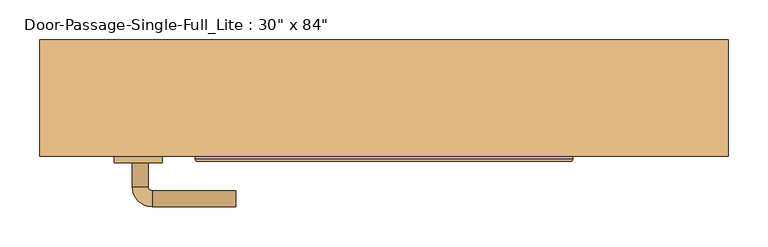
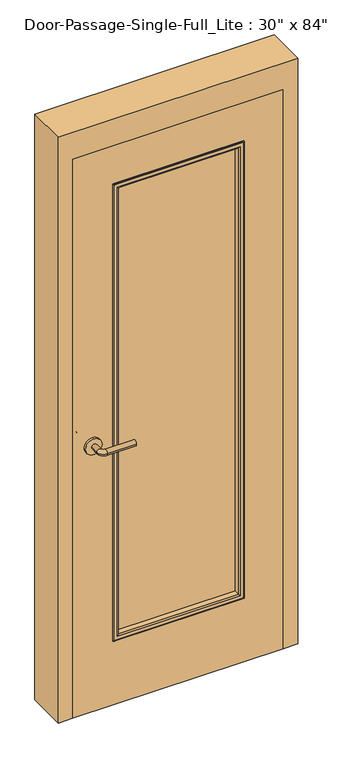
"""IFC4 building model written with IfcOpenShell, lengths in millimetres: door geometry."""

import ifcopenshell
import ifcopenshell.guid

model = None  # the IFC model being written
_history = None  # IfcOwnerHistory: only IFC2X3 demands one
_inside = {}  # id of a spatial element -> (the spatial element, [elements in it])
_under = {}  # id of a project, library or spatial element -> (it, [spatial elements below it])
_declared = {}  # id of a project -> (the project, [libraries it declares])
_typed = {}  # id of a type object -> (the type object, [elements of that type])
_made_of = {}  # id of a material, layer set ... -> (it, [elements and type objects made of it])


def new_model(schema):
    """Start an empty IFC model of exactly this schema.

    Asked for "IFC4X3", IfcOpenShell would pick the latest addendum, in which some entities
    have other attributes; the version numbers below select the first issue.
    IFC2X3 requires an IfcOwnerHistory on every rooted entity: one is made here for all.
    """
    global model, _history
    if schema == "IFC4X3":
        model = ifcopenshell.file(schema_version=(4, 3, 0, 0))
    else:
        model = ifcopenshell.file(schema=schema)
    _inside.clear()
    _under.clear()
    _declared.clear()
    _typed.clear()
    _made_of.clear()
    _history = None
    if model.schema == "IFC2X3":
        org = make("IfcOrganization", Name="unknown")
        user = make(
            "IfcPersonAndOrganization",
            ThePerson=make("IfcPerson", FamilyName="unknown"),
            TheOrganization=org,
        )
        app = make(
            "IfcApplication",
            ApplicationDeveloper=org,
            Version="unknown",
            ApplicationFullName="unknown",
            ApplicationIdentifier="unknown",
        )
        _history = make(
            "IfcOwnerHistory",
            OwningUser=user,
            OwningApplication=app,
            ChangeAction="ADDED",
            CreationDate=0,
        )
    return model


def make(cls, **values):
    """One entity of the class cls with the attributes given. An attribute that is None is left unset."""
    return model.create_entity(
        cls, **{name: value for name, value in values.items() if value is not None}
    )


def rooted(cls, **values):
    """An entity with a GlobalId (a new one), such as an element, a storey or a relation."""
    return make(cls, GlobalId=ifcopenshell.guid.new(), OwnerHistory=_history, **values)


def si_unit(unit_type, name, prefix=None):
    """IfcSIUnit, for example si_unit("LENGTHUNIT", "METRE", prefix="MILLI")."""
    return make("IfcSIUnit", UnitType=unit_type, Prefix=prefix, Name=name)


def assignment(units):
    """IfcUnitAssignment: the units of a project."""
    return None if units is None else make("IfcUnitAssignment", Units=units)


def point(xyz):
    """IfcCartesianPoint."""
    return None if xyz is None else make("IfcCartesianPoint", Coordinates=xyz)


def direction(xyz):
    """IfcDirection."""
    return None if xyz is None else make("IfcDirection", DirectionRatios=xyz)


def frame(location, z_axis=None, x_axis=None):
    """IfcAxis2Placement3D, a coordinate frame: its origin and axes. An axis left out is left unset."""
    return make(
        "IfcAxis2Placement3D",
        Location=point(location),
        Axis=direction(z_axis),
        RefDirection=direction(x_axis),
    )


def frame_2d(location, x_axis=None):
    """IfcAxis2Placement2D, a coordinate frame in the plane: its origin and x axis."""
    return make(
        "IfcAxis2Placement2D", Location=point(location), RefDirection=direction(x_axis)
    )


def origin():
    """The frame at (0, 0, 0) with its axes left unset."""
    return frame((0.0, 0.0, 0.0))


def place(relative_to, where):
    """IfcLocalPlacement: puts the frame where relative to a parent placement (None: the world)."""
    return make(
        "IfcLocalPlacement", PlacementRelTo=relative_to, RelativePlacement=where
    )


def context(
    kind, dimensions, precision=None, world=None, true_north=None, identifier=None
):
    """IfcGeometricRepresentationContext, for example the 3D "Model" context."""
    return make(
        "IfcGeometricRepresentationContext",
        ContextIdentifier=identifier,
        ContextType=kind,
        CoordinateSpaceDimension=dimensions,
        Precision=precision,
        WorldCoordinateSystem=world,
        TrueNorth=true_north,
    )


def project(units=None, contexts=None):
    """IfcProject with its units and contexts."""
    return rooted(
        "IfcProject",
        Name="project",
        RepresentationContexts=contexts,
        UnitsInContext=assignment(units),
    )


def spatial(cls, under=None, at=None, **own):
    """A site, building, storey or space (cls), placed at a placement, below another one or the project."""
    s = rooted(cls, ObjectPlacement=at, **own)
    if under is not None:
        _under.setdefault(under.id(), (under, []))[1].append(s)
    return s


def polyline(points):
    """IfcPolyline through the points."""
    return make("IfcPolyline", Points=[point(p) for p in points])


def circle_curve(where, radius):
    """IfcCircle in the frame where."""
    return make("IfcCircle", Position=where, Radius=radius)


def ellipse_curve(where, semi_axis1, semi_axis2):
    """IfcEllipse in the frame where."""
    return make(
        "IfcEllipse", Position=where, SemiAxis1=semi_axis1, SemiAxis2=semi_axis2
    )


def trimmed(basis, trim1, trim2, sense, master):
    """IfcTrimmedCurve: the piece of a basis curve between two trims."""
    return make(
        "IfcTrimmedCurve",
        BasisCurve=basis,
        Trim1=trim1,
        Trim2=trim2,
        SenseAgreement=sense,
        MasterRepresentation=master,
    )


def segment(curve, same_sense, transition):
    """IfcCompositeCurveSegment."""
    return make(
        "IfcCompositeCurveSegment",
        Transition=transition,
        SameSense=same_sense,
        ParentCurve=curve,
    )


def composite_curve(segments, self_intersect=None):
    """IfcCompositeCurve: segments joined end to end."""
    return make("IfcCompositeCurve", Segments=segments, SelfIntersect=self_intersect)


def outline(outer, holes=None, kind="AREA"):
    """IfcArbitraryClosedProfileDef: a profile drawn as a closed curve; with holes, ...WithVoids."""
    if holes is None:
        return make("IfcArbitraryClosedProfileDef", ProfileType=kind, OuterCurve=outer)
    return make(
        "IfcArbitraryProfileDefWithVoids",
        ProfileType=kind,
        OuterCurve=outer,
        InnerCurves=holes,
    )


def extrude(swept, where, along, depth):
    """IfcExtrudedAreaSolid: the profile swept, set in the frame where, extruded along a direction by depth."""
    return make(
        "IfcExtrudedAreaSolid",
        SweptArea=swept,
        Position=where,
        ExtrudedDirection=direction(along),
        Depth=depth,
    )


def faces_of(points, faces, orient=None, outer=None):
    """IfcFace entities. A face is a list of loops; a loop is a list of indices into points, from 0.

    orient and outer hold one flag for each loop. By default every Orientation is true, the
    first loop of a face is its IfcFaceOuterBound and the others are IfcFaceBound.
    """
    made = []
    for i, loops in enumerate(faces):
        bounds = []
        for j, loop in enumerate(loops):
            is_outer = j == 0 if outer is None else outer[i][j]
            bounds.append(
                make(
                    "IfcFaceOuterBound" if is_outer else "IfcFaceBound",
                    Bound=make("IfcPolyLoop", Polygon=[points[k] for k in loop]),
                    Orientation=True if orient is None else orient[i][j],
                )
            )
        made.append(make("IfcFace", Bounds=bounds))
    return made


def faceted_brep(points, faces, orient=None, outer=None, voids=None):
    """IfcFacetedBrep: a solid bounded by flat faces; with voids (closed shells), ...WithVoids."""
    shared = [point(p) for p in points]
    hull = make("IfcClosedShell", CfsFaces=faces_of(shared, faces, orient, outer))
    if voids is None:
        return make("IfcFacetedBrep", Outer=hull)
    return make(
        "IfcFacetedBrepWithVoids",
        Outer=hull,
        Voids=[
            make(cls, CfsFaces=faces_of(shared, fs, o, b)) for cls, fs, o, b in voids
        ],
    )


def shape(context_of_items, identifier, shape_type, items):
    """IfcShapeRepresentation: the items that make up one representation, for example the "Body"."""
    return make(
        "IfcShapeRepresentation",
        ContextOfItems=context_of_items,
        RepresentationIdentifier=identifier,
        RepresentationType=shape_type,
        Items=items,
    )


def source(mapping_origin, context_of_items, identifier, shape_type, items):
    """IfcRepresentationMap: a shape defined once, which mapped items show again and again."""
    return make(
        "IfcRepresentationMap",
        MappingOrigin=mapping_origin,
        MappedRepresentation=shape(context_of_items, identifier, shape_type, items),
    )


def transform(
    local_origin,
    x_axis=None,
    y_axis=None,
    z_axis=None,
    scale=None,
    scale2=None,
    scale3=None,
    uniform=True,
):
    """IfcCartesianTransformationOperator3D, or its non-uniform kind. x_axis, y_axis, z_axis: its Axis1, 2, 3."""
    if uniform:
        return make(
            "IfcCartesianTransformationOperator3D",
            Axis1=direction(x_axis),
            Axis2=direction(y_axis),
            LocalOrigin=point(local_origin),
            Scale=scale,
            Axis3=direction(z_axis),
        )
    return make(
        "IfcCartesianTransformationOperator3DnonUniform",
        Axis1=direction(x_axis),
        Axis2=direction(y_axis),
        LocalOrigin=point(local_origin),
        Scale=scale,
        Axis3=direction(z_axis),
        Scale2=scale2,
        Scale3=scale3,
    )


def mapped(mapping_source, mapping_target):
    """IfcMappedItem: shows the shape of a source again, moved by a transform."""
    return make(
        "IfcMappedItem", MappingSource=mapping_source, MappingTarget=mapping_target
    )


def made_of(thing, what):
    """Note that an element or type object is made of a material, layer set ...; save() writes the relation."""
    if what is not None:
        _made_of.setdefault(what.id(), (what, []))[1].append(thing)
    return thing


def element(
    cls,
    number,
    at=None,
    inside=None,
    cuts=None,
    type_object=None,
    material=None,
    context=None,
    identifier="Body",
    shape_type=None,
    held_by="IfcProductDefinitionShape",
    body=None,
    shapes=None,
    **own,
):
    """One element of the class cls, such as IfcWall. Its Tag is "e" and its number.

    at: its placement. inside: the storey or other place that contains it. cuts: it is an
    opening in that element (IfcRelVoidsElement). A single representation is given by context,
    identifier, shape_type and body (its items); several are given by shapes. held_by: the class
    of the entity that holds the representations. save() writes the other relations.
    """
    e = rooted(cls, Tag="e%d" % number, ObjectPlacement=at, **own)
    if body is not None:
        shapes = [shape(context, identifier, shape_type, body)]
    if shapes is not None:
        e.Representation = make(held_by, Representations=shapes)
    if inside is not None:
        _inside.setdefault(inside.id(), (inside, []))[1].append(e)
    if cuts is not None:
        rooted(
            "IfcRelVoidsElement", RelatingBuildingElement=cuts, RelatedOpeningElement=e
        )
    if type_object is not None:
        _typed.setdefault(type_object.id(), (type_object, []))[1].append(e)
    return made_of(e, material)


def aggregate(whole, parts):
    """IfcRelAggregates: a whole, such as a stair, and the parts it consists of."""
    return rooted("IfcRelAggregates", RelatingObject=whole, RelatedObjects=parts)


def save(model, path):
    """Write the relations noted so far, then the file.

    IfcRelAggregates (storeys below a building ...), IfcRelContainedInSpatialStructure (elements
    in a storey), IfcRelDefinesByType, IfcRelAssociatesMaterial and IfcRelDeclares: one each for
    every whole, place, type object, material and project.
    """
    for whole, parts in _under.values():
        aggregate(whole, parts)
    for where, things in _inside.values():
        rooted(
            "IfcRelContainedInSpatialStructure",
            RelatedElements=things,
            RelatingStructure=where,
        )
    for kind, things in _typed.values():
        rooted("IfcRelDefinesByType", RelatedObjects=things, RelatingType=kind)
    for what, things in _made_of.values():
        rooted("IfcRelAssociatesMaterial", RelatedObjects=things, RelatingMaterial=what)
    for by, libraries in _declared.values():
        rooted("IfcRelDeclares", RelatingContext=by, RelatedDefinitions=libraries)
    model.write(path)


def plane_surface(at):
    """IfcPlane: the flat surface through the origin of the frame at, square to its z axis."""
    return make("IfcPlane", Position=at)


def cylinder_surface(at, radius):
    """IfcCylindricalSurface: all points at the distance radius from the z axis of the frame at."""
    return make("IfcCylindricalSurface", Position=at, Radius=radius)


def revolved_surface(curve, axis_point, axis_direction):
    """IfcSurfaceOfRevolution: the curve turned about the line through axis_point along axis_direction."""
    return make(
        "IfcSurfaceOfRevolution",
        SweptCurve=make("IfcArbitraryOpenProfileDef", ProfileType="CURVE", Curve=curve),
        AxisPosition=make("IfcAxis1Placement", Location=point(axis_point), Axis=direction(axis_direction)),
    )


def advanced_brep(points, edges, surfaces, faces):
    """IfcAdvancedBrep: a solid bounded by faces that lie on surfaces and meet in shared edges.

    An edge is (start, end): straight between two places in points (the first is 0);
    or (start, end, curve); or (start, end, curve, False) where it runs against its curve.
    A face is (place in surfaces, loops), or (place, loops, False) where it looks against
    its surface's normal. A loop lists edges by number (the first is 1), with a minus sign
    where the edge is run from its end to its start. The first loop is the outer one.
    """
    corners = [point(p) for p in points]
    vertices = [make("IfcVertexPoint", VertexGeometry=c) for c in corners]
    made = []
    for start, end, *more in edges:
        made.append(
            make(
                "IfcEdgeCurve",
                EdgeStart=vertices[start],
                EdgeEnd=vertices[end],
                EdgeGeometry=more[0] if more else make("IfcPolyline", Points=[corners[start], corners[end]]),
                SameSense=more[1] if len(more) > 1 else True,
            )
        )
    hull = []
    for where, loops, *sense in faces:
        bounds = []
        for j, loop in enumerate(loops):
            ring = [make("IfcOrientedEdge", EdgeElement=made[abs(k) - 1], Orientation=k > 0) for k in loop]
            bounds.append(
                make(
                    "IfcFaceOuterBound" if j == 0 else "IfcFaceBound",
                    Bound=make("IfcEdgeLoop", EdgeList=ring),
                    Orientation=True,
                )
            )
        hull.append(make("IfcAdvancedFace", Bounds=bounds, FaceSurface=surfaces[where], SameSense=sense[0] if sense else True))
    return make("IfcAdvancedBrep", Outer=make("IfcClosedShell", CfsFaces=hull))


def door_a28de425(model_context):
    return source(origin(), model_context, "Body", "SolidModel", [
        advanced_brep(
        [(-315.990625, -23.75, 1016.0), (-295.990625, -23.75, 1016.0), (-315.990625, 6.25, 1016.0), (-295.990625, 6.25, 1016.0), (-290.990625, 11.25, 1016.0), (-290.990625, 31.25, 1016.0), (-185.990625, 31.25, 1016.0), (-185.990625, 11.25, 1016.0)],
        [
            (0, 1, circle_curve(frame((-305.990625, -23.75, 1016.0), z_axis=(0.0, -1.0, 0.0), x_axis=(1.0, 0.0, 0.0)), 10.0)),
            (1, 0, circle_curve(frame((-305.990625, -23.75, 1016.0), z_axis=(0.0, -1.0, 0.0), x_axis=(1.0, 0.0, 0.0)), 10.0)),
            (0, 2),
            (2, 3, circle_curve(frame((-305.990625, 6.25, 1016.0), z_axis=(0.0, -1.0, 0.0), x_axis=(1.0, 0.0, 0.0)), 10.0)),
            (3, 1),
            (3, 2, circle_curve(frame((-305.990625, 6.25, 1016.0), z_axis=(0.0, -1.0, 0.0), x_axis=(1.0, 0.0, 0.0)), 10.0)),
            (4, 3, circle_curve(frame((-290.990625, 6.25, 1016.0), z_axis=(0.0, 0.0, 1.0), x_axis=(-1.0, 0.0, 0.0)), 5.0)),
            (2, 5, circle_curve(frame((-290.990625, 6.25, 1016.0), z_axis=(0.0, 0.0, -1.0), x_axis=(-1.0, 0.0, 0.0)), 25.0)),
            (5, 4, circle_curve(frame((-290.990625, 21.25, 1016.0), z_axis=(-1.0, 0.0, 0.0), x_axis=(0.0, -1.0, 0.0)), 10.0)),
            (4, 5, circle_curve(frame((-290.990625, 21.25, 1016.0), z_axis=(-1.0, 0.0, 0.0), x_axis=(0.0, -1.0, 0.0)), 10.0)),
            (6, 7, circle_curve(frame((-185.990625, 21.25, 1016.0), z_axis=(1.0, 0.0, 0.0), x_axis=(0.0, -1.0, 0.0)), 10.0)),
            (7, 6, circle_curve(frame((-185.990625, 21.25, 1016.0), z_axis=(1.0, 0.0, 0.0), x_axis=(0.0, -1.0, 0.0)), 10.0)),
            (5, 6),
            (7, 4),
        ],
        [
            plane_surface(frame((-305.990625, -23.75, 1016.0), z_axis=(0.0, -1.0, 0.0), x_axis=(0.0, 0.0, 1.0))),
            cylinder_surface(frame((-305.990625, -23.75, 1016.0), z_axis=(0.0, -1.0, 0.0), x_axis=(1.0, 0.0, 0.0)), 10.0),
            revolved_surface(trimmed(ellipse_curve(frame((-305.990625, 6.25, 1016.0), z_axis=(0.0, -1.0, 0.0), x_axis=(1.0, 0.0, 0.0)), 10.0, 10.0), [point((-315.990625, 6.25, 1016.0))], [point((-295.990625, 6.25, 1016.0))], True, "CARTESIAN"), (-290.990625, 6.25, 1016.0), (0.0, 0.0, -1.0)),
            revolved_surface(trimmed(ellipse_curve(frame((-305.990625, 6.25, 1016.0), z_axis=(0.0, -1.0, 0.0), x_axis=(1.0, 0.0, 0.0)), 10.0, 10.0), [point((-295.990625, 6.25, 1016.0))], [point((-315.990625, 6.25, 1016.0))], True, "CARTESIAN"), (-290.990625, 6.25, 1016.0), (0.0, 0.0, -1.0)),
            plane_surface(frame((-185.990625, 21.25, 1016.0), z_axis=(1.0, 0.0, 0.0), x_axis=(0.0, 0.0, 1.0))),
            cylinder_surface(frame((-290.990625, 21.25, 1016.0), z_axis=(-1.0, 0.0, 0.0), x_axis=(0.0, -1.0, 0.0)), 10.0),
        ],
        [
            (0, [[1, 2]]),
            (1, [[-1, 3, 4, 5]]),
            (1, [[-2, -5, 6, -3]]),
            (2, [[7, -4, 8, 9]]),
            (3, [[-8, -6, -7, 10]]),
            (4, [[11, 12]]),
            (5, [[-9, 13, -12, 14]]),
            (5, [[-10, -14, -11, -13]]),
        ],
    ),
        extrude(outline(composite_curve([segment(trimmed(circle_curve(frame_2d((1016.0, -308.490625)), 30.0), [point((1016.0, -338.490625))], [point((1016.0, -278.490625))], False, "CARTESIAN"), True, "CONTINUOUS"), segment(trimmed(circle_curve(frame_2d((1016.0, -308.490625)), 30.0), [point((1016.0, -278.490625))], [point((1016.0, -338.490625))], False, "CARTESIAN"), True, "CONTINUOUS")], self_intersect=False)), frame((0.0, -31.75, 0.0), z_axis=(0.0, 1.0, 0.0), x_axis=(0.0, 0.0, 1.0)), (0.0, 0.0, 1.0), 8.0),
        advanced_brep(
        [(-315.990625, -84.2, 1016.0), (-295.990625, -84.2, 1016.0), (-295.990625, -114.2, 1016.0), (-315.990625, -114.2, 1016.0), (-290.990625, -119.2, 1016.0), (-290.990625, -139.2, 1016.0), (-185.990625, -139.2, 1016.0), (-185.990625, -119.2, 1016.0)],
        [
            (0, 1, circle_curve(frame((-305.990625, -84.2, 1016.0), z_axis=(0.0, 1.0, 0.0), x_axis=(1.0, 0.0, 0.0)), 10.0)),
            (1, 0, circle_curve(frame((-305.990625, -84.2, 1016.0), z_axis=(0.0, 1.0, 0.0), x_axis=(1.0, 0.0, 0.0)), 10.0)),
            (1, 2),
            (2, 3, circle_curve(frame((-305.990625, -114.2, 1016.0), z_axis=(0.0, 1.0, 0.0), x_axis=(1.0, 0.0, 0.0)), 10.0)),
            (3, 0),
            (3, 2, circle_curve(frame((-305.990625, -114.2, 1016.0), z_axis=(0.0, 1.0, 0.0), x_axis=(1.0, 0.0, 0.0)), 10.0)),
            (4, 5, circle_curve(frame((-290.990625, -129.2, 1016.0), z_axis=(-1.0, 0.0, 0.0), x_axis=(0.0, 1.0, 0.0)), 10.0)),
            (5, 3, circle_curve(frame((-290.990625, -114.2, 1016.0), z_axis=(0.0, 0.0, -1.0), x_axis=(-1.0, 0.0, 0.0)), 25.0)),
            (2, 4, circle_curve(frame((-290.990625, -114.2, 1016.0), z_axis=(0.0, 0.0, 1.0), x_axis=(-1.0, 0.0, 0.0)), 5.0)),
            (5, 4, circle_curve(frame((-290.990625, -129.2, 1016.0), z_axis=(-1.0, 0.0, 0.0), x_axis=(0.0, 1.0, 0.0)), 10.0)),
            (6, 7, circle_curve(frame((-185.990625, -129.2, 1016.0), z_axis=(1.0, 0.0, 0.0), x_axis=(0.0, 1.0, 0.0)), 10.0)),
            (7, 6, circle_curve(frame((-185.990625, -129.2, 1016.0), z_axis=(1.0, 0.0, 0.0), x_axis=(0.0, 1.0, 0.0)), 10.0)),
            (4, 7),
            (6, 5),
        ],
        [
            plane_surface(frame((-305.990625, -84.2, 1016.0), z_axis=(0.0, 1.0, 0.0), x_axis=(0.0, 0.0, 1.0))),
            cylinder_surface(frame((-305.990625, -84.2, 1016.0), z_axis=(0.0, 1.0, 0.0), x_axis=(1.0, 0.0, 0.0)), 10.0),
            revolved_surface(trimmed(ellipse_curve(frame((-305.990625, -114.2, 1016.0), z_axis=(0.0, -1.0, 0.0), x_axis=(1.0, 0.0, 0.0)), 10.0, 10.0), [point((-315.990625, -114.2, 1016.0))], [point((-295.990625, -114.2, 1016.0))], True, "CARTESIAN"), (-290.990625, -114.2, 1016.0), (0.0, 0.0, -1.0)),
            revolved_surface(trimmed(ellipse_curve(frame((-305.990625, -114.2, 1016.0), z_axis=(0.0, -1.0, 0.0), x_axis=(1.0, 0.0, 0.0)), 10.0, 10.0), [point((-295.990625, -114.2, 1016.0))], [point((-315.990625, -114.2, 1016.0))], True, "CARTESIAN"), (-290.990625, -114.2, 1016.0), (0.0, 0.0, -1.0)),
            plane_surface(frame((-185.990625, -129.2, 1016.0), z_axis=(1.0, 0.0, 0.0), x_axis=(0.0, 0.0, 1.0))),
            cylinder_surface(frame((-290.990625, -129.2, 1016.0), z_axis=(-1.0, 0.0, 0.0), x_axis=(0.0, 1.0, 0.0)), 10.0),
        ],
        [
            (0, [[1, 2]]),
            (1, [[3, 4, 5, -2]]),
            (1, [[-5, 6, -3, -1]]),
            (2, [[7, 8, -4, 9]]),
            (3, [[10, -9, -6, -8]]),
            (4, [[11, 12]]),
            (5, [[13, -11, 14, -7]]),
            (5, [[-14, -12, -13, -10]]),
        ],
    ),
        extrude(outline(composite_curve([segment(trimmed(circle_curve(frame_2d((1016.0, -308.490625)), 30.0), [point((1016.0, -338.490625))], [point((1016.0, -278.490625))], False, "CARTESIAN"), True, "CONTINUOUS"), segment(trimmed(circle_curve(frame_2d((1016.0, -308.490625)), 30.0), [point((1016.0, -278.490625))], [point((1016.0, -338.490625))], False, "CARTESIAN"), True, "CONTINUOUS")], self_intersect=False)), frame((0.0, -84.2, 0.0), z_axis=(0.0, 1.0, 0.0), x_axis=(0.0, 0.0, 1.0)), (0.0, 0.0, 1.0), 8.0),
        extrude(outline(polyline([(228.6, -50.8), (228.6, -57.15), (-228.6, -57.15), (-228.6, -50.8), (228.6, -50.8)])), frame((0.0, 0.0, 254.0), z_axis=(0.0, 0.0, 1.0), x_axis=(1.0, 0.0, 0.0)), (0.0, 0.0, 1.0), 1727.2),
        faceted_brep([(381.0, -26.9875, 0.0), (365.125, -26.9875, 0.0), (365.125, 20.6375, 0.0), (381.0, 20.6375, 0.0), (381.0, 69.85, 0.0), (431.8, 69.85, 0.0), (431.8, -76.2, 0.0), (381.0, -76.2, 0.0), (381.0, -76.2, 2133.6), (381.0, -26.9875, 2133.6), (431.8, -76.2, 2235.2), (-431.8, -76.2, 2235.2), (-431.8, -76.2, 0.0), (-381.0, -76.2, 0.0), (-381.0, -76.2, 2133.6), (431.8, 69.85, 2235.2), (381.0, 69.85, 2133.6), (-381.0, 69.85, 2133.6), (-381.0, 69.85, 0.0), (-431.8, 69.85, 0.0), (-431.8, 69.85, 2235.2), (381.0, 20.6375, 2133.6), (365.125, 20.6375, 2117.725), (-365.125, 20.6375, 2117.725), (-365.125, 20.6375, 0.0), (-381.0, 20.6375, 0.0), (-381.0, 20.6375, 2133.6), (365.125, -26.9875, 2117.725), (-381.0, -26.9875, 2133.6), (-381.0, -26.9875, 0.0), (-365.125, -26.9875, 0.0), (-365.125, -26.9875, 2117.725)], [[[0, 1, 2, 3, 4, 5, 6, 7]], [[7, 8, 9, 0]], [[6, 10, 11, 12, 13, 14, 8, 7]], [[5, 15, 10, 6]], [[4, 16, 17, 18, 19, 20, 15, 5]], [[3, 21, 16, 4]], [[2, 22, 23, 24, 25, 26, 21, 3]], [[1, 27, 22, 2]], [[0, 9, 28, 29, 30, 31, 27, 1]], [[8, 14, 28, 9]], [[16, 21, 26, 17]], [[22, 27, 31, 23]], [[12, 19, 18, 25, 24, 30, 29, 13]], [[13, 29, 28, 14]], [[11, 20, 19, 12]], [[17, 26, 25, 18]], [[23, 31, 30, 24]], [[15, 20, 11, 10]]]),
        extrude(outline(polyline([(2133.6, -381.0), (0.0, -381.0), (0.0, 381.0), (2133.6, 381.0), (2133.6, -381.0)]), holes=[polyline([(1981.2, -228.6), (1981.2, 228.6), (254.0, 228.6), (254.0, -228.6), (1981.2, -228.6)])]), frame((0.0, -76.2, 0.0), z_axis=(0.0, 1.0, 0.0), x_axis=(0.0, 0.0, 1.0)), (0.0, 0.0, 1.0), 44.45),
        advanced_brep(
        [(-228.6, -57.15, 1981.2), (-228.6, -57.15, 254.0), (-228.6, -76.2, 254.0), (-228.6, -76.2, 1981.2), (-216.6, -77.2, 1969.2), (-216.6, -77.2, 266.0), (-216.6, -57.15, 266.0), (-216.6, -57.15, 1969.2), (-221.6, -82.2, 1974.2), (-221.6, -82.2, 261.0), (-236.6, -80.2, 1989.2), (-236.6, -80.2, 246.0), (-234.6, -82.2, 248.0), (-234.6, -82.2, 1987.2), (-236.6, -76.2, 1989.2), (-236.6, -76.2, 246.0), (228.6, -57.15, 254.0), (228.6, -76.2, 254.0), (216.6, -77.2, 266.0), (216.6, -57.15, 266.0), (221.6, -82.2, 261.0), (236.6, -80.2, 246.0), (234.6, -82.2, 248.0), (236.6, -76.2, 246.0), (228.6, -57.15, 1981.2), (228.6, -76.2, 1981.2), (216.6, -77.2, 1969.2), (216.6, -57.15, 1969.2), (221.6, -82.2, 1974.2), (236.6, -80.2, 1989.2), (234.6, -82.2, 1987.2), (236.6, -76.2, 1989.2)],
        [
            (0, 1),
            (1, 2),
            (2, 3),
            (3, 0),
            (4, 5),
            (5, 6),
            (6, 7),
            (7, 4),
            (8, 9),
            (9, 5, ellipse_curve(frame((-221.6, -77.2, 261.0), z_axis=(-0.7071067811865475, 0.0, 0.7071067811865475), x_axis=(0.7071067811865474, 0.0, 0.7071067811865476)), 7.0710678, 5.0)),
            (4, 8, ellipse_curve(frame((-221.6, -77.2, 1974.2), z_axis=(-0.7071067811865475, 0.0, -0.7071067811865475), x_axis=(-0.7071067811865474, 0.0, 0.7071067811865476)), 7.0710678, 5.0)),
            (10, 11),
            (11, 12, ellipse_curve(frame((-234.6, -80.2, 248.0), z_axis=(-0.7071067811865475, 0.0, 0.7071067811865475), x_axis=(0.7071067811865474, 0.0, 0.7071067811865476)), 2.8284271, 2.0)),
            (12, 13),
            (13, 10, ellipse_curve(frame((-234.6, -80.2, 1987.2), z_axis=(-0.7071067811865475, 0.0, -0.7071067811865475), x_axis=(-0.7071067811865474, 0.0, 0.7071067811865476)), 2.8284271, 2.0)),
            (14, 15),
            (15, 11),
            (10, 14),
            (1, 16),
            (16, 17),
            (17, 2),
            (5, 18),
            (18, 19),
            (19, 6),
            (9, 20),
            (20, 18, ellipse_curve(frame((221.6, -77.2, 261.0), z_axis=(-0.7071067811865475, 0.0, -0.7071067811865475), x_axis=(-0.7071067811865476, 0.0, 0.7071067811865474)), 7.0710678, 5.0)),
            (11, 21),
            (21, 22, ellipse_curve(frame((234.6, -80.2, 248.0), z_axis=(-0.7071067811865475, 0.0, -0.7071067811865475), x_axis=(-0.7071067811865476, 0.0, 0.7071067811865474)), 2.8284271, 2.0)),
            (22, 12),
            (15, 23),
            (23, 21),
            (16, 24),
            (24, 25),
            (25, 17),
            (18, 26),
            (26, 27),
            (27, 19),
            (20, 28),
            (28, 26, ellipse_curve(frame((221.6, -77.2, 1974.2), z_axis=(0.7071067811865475, 0.0, -0.7071067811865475), x_axis=(-0.7071067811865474, 0.0, -0.7071067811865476)), 7.0710678, 5.0)),
            (21, 29),
            (29, 30, ellipse_curve(frame((234.6, -80.2, 1987.2), z_axis=(0.7071067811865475, 0.0, -0.7071067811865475), x_axis=(-0.7071067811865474, 0.0, -0.7071067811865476)), 2.8284271, 2.0)),
            (30, 22),
            (23, 31),
            (31, 29),
            (14, 31),
            (25, 3),
            (24, 0),
            (27, 7),
            (26, 4),
            (28, 8),
            (30, 13),
            (29, 10),
        ],
        [
            plane_surface(frame((-228.6, -76.2, 1981.2), z_axis=(-1.0, 0.0, 0.0), x_axis=(0.0, 0.0, -1.0))),
            plane_surface(frame((-216.6, -57.15, 1969.2), z_axis=(1.0, 0.0, 0.0), x_axis=(0.0, 0.0, -1.0))),
            cylinder_surface(frame((-221.6, -77.2, 1981.2), z_axis=(0.0, 0.0, 1.0), x_axis=(-1.0, 0.0, 0.0)), 5.0),
            cylinder_surface(frame((-234.6, -80.2, 1981.2), z_axis=(0.0, 0.0, 1.0), x_axis=(-1.0, 0.0, 0.0)), 2.0),
            plane_surface(frame((-236.6, -80.2, 1989.2), z_axis=(-1.0, 0.0, 0.0), x_axis=(0.0, 0.0, -1.0))),
            plane_surface(frame((-228.6, -76.2, 254.0), z_axis=(0.0, 0.0, -1.0), x_axis=(1.0, 0.0, 0.0))),
            plane_surface(frame((-216.6, -57.15, 266.0), z_axis=(0.0, 0.0, 1.0), x_axis=(1.0, 0.0, 0.0))),
            cylinder_surface(frame((-228.6, -77.2, 261.0), z_axis=(-1.0, 0.0, 0.0), x_axis=(0.0, 0.0, -1.0)), 5.0),
            cylinder_surface(frame((-228.6, -80.2, 248.0), z_axis=(-1.0, 0.0, 0.0), x_axis=(0.0, 0.0, -1.0)), 2.0),
            plane_surface(frame((-236.6, -80.2, 246.0), z_axis=(0.0, 0.0, -1.0), x_axis=(1.0, 0.0, 0.0))),
            plane_surface(frame((228.6, -76.2, 254.0), z_axis=(1.0, 0.0, 0.0), x_axis=(0.0, 0.0, 1.0))),
            plane_surface(frame((216.6, -57.15, 266.0), z_axis=(-1.0, 0.0, 0.0), x_axis=(0.0, 0.0, 1.0))),
            cylinder_surface(frame((221.6, -77.2, 254.0), z_axis=(0.0, 0.0, -1.0), x_axis=(1.0, 0.0, 0.0)), 5.0),
            cylinder_surface(frame((234.6, -80.2, 254.0), z_axis=(0.0, 0.0, -1.0), x_axis=(1.0, 0.0, 0.0)), 2.0),
            plane_surface(frame((236.6, -80.2, 246.0), z_axis=(1.0, 0.0, 0.0), x_axis=(0.0, 0.0, 1.0))),
            plane_surface(frame((236.6, -76.2, 1989.2), z_axis=(0.0, 1.0, 0.0), x_axis=(-1.0, 0.0, 0.0))),
            plane_surface(frame((228.6, -76.2, 1981.2), z_axis=(0.0, 0.0, 1.0), x_axis=(-1.0, 0.0, 0.0))),
            plane_surface(frame((228.6, -57.15, 1981.2), z_axis=(0.0, 1.0, 0.0), x_axis=(-1.0, 0.0, 0.0))),
            plane_surface(frame((216.6, -57.15, 1969.2), z_axis=(0.0, 0.0, -1.0), x_axis=(-1.0, 0.0, 0.0))),
            cylinder_surface(frame((228.6, -77.2, 1974.2), z_axis=(1.0, 0.0, 0.0), x_axis=(0.0, 0.0, 1.0)), 5.0),
            plane_surface(frame((221.6, -82.2, 1974.2), z_axis=(0.0, -1.0, 0.0), x_axis=(-1.0, 0.0, 0.0))),
            cylinder_surface(frame((228.6, -80.2, 1987.2), z_axis=(1.0, 0.0, 0.0), x_axis=(0.0, 0.0, 1.0)), 2.0),
            plane_surface(frame((236.6, -80.2, 1989.2), z_axis=(0.0, 0.0, 1.0), x_axis=(-1.0, 0.0, 0.0))),
        ],
        [
            (0, [[1, 2, 3, 4]]),
            (1, [[5, 6, 7, 8]]),
            (2, [[9, 10, -5, 11]]),
            (3, [[12, 13, 14, 15]]),
            (4, [[16, 17, -12, 18]]),
            (5, [[19, 20, 21, -2]]),
            (6, [[22, 23, 24, -6]]),
            (7, [[25, 26, -22, -10]]),
            (8, [[27, 28, 29, -13]]),
            (9, [[30, 31, -27, -17]]),
            (10, [[32, 33, 34, -20]]),
            (11, [[35, 36, 37, -23]]),
            (12, [[38, 39, -35, -26]]),
            (13, [[40, 41, 42, -28]]),
            (14, [[43, 44, -40, -31]]),
            (15, [[-16, 45, -43, -30], [-3, -21, -34, 46]]),
            (16, [[47, -4, -46, -33]]),
            (17, [[-1, -47, -32, -19], [-7, -24, -37, 48]]),
            (18, [[49, -8, -48, -36]]),
            (19, [[50, -11, -49, -39]]),
            (20, [[-14, -29, -42, 51], [-9, -50, -38, -25]]),
            (21, [[52, -15, -51, -41]]),
            (22, [[-45, -18, -52, -44]]),
        ],
    ),
        advanced_brep(
        [(-228.6, -50.8, 254.0), (-228.6, -50.8, 1981.2), (-228.6, -31.75, 1981.2), (-228.6, -31.75, 254.0), (-216.6, -30.75, 266.0), (-216.6, -30.75, 1969.2), (-216.6, -50.8, 1969.2), (-216.6, -50.8, 266.0), (-221.6, -25.75, 261.0), (-221.6, -25.75, 1974.2), (-236.6, -27.75, 246.0), (-236.6, -27.75, 1989.2), (-234.6, -25.75, 1987.2), (-234.6, -25.75, 248.0), (-236.6, -31.75, 246.0), (-236.6, -31.75, 1989.2), (228.6, -50.8, 1981.2), (228.6, -31.75, 1981.2), (216.6, -30.75, 1969.2), (216.6, -50.8, 1969.2), (221.6, -25.75, 1974.2), (236.6, -27.75, 1989.2), (234.6, -25.75, 1987.2), (236.6, -31.75, 1989.2), (228.6, -50.8, 254.0), (228.6, -31.75, 254.0), (216.6, -30.75, 266.0), (216.6, -50.8, 266.0), (221.6, -25.75, 261.0), (236.6, -27.75, 246.0), (234.6, -25.75, 248.0), (236.6, -31.75, 246.0)],
        [
            (0, 1),
            (1, 2),
            (2, 3),
            (3, 0),
            (4, 5),
            (5, 6),
            (6, 7),
            (7, 4),
            (8, 9),
            (9, 5, ellipse_curve(frame((-221.6, -30.75, 1974.2), z_axis=(-0.7071067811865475, 0.0, -0.7071067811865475), x_axis=(0.7071067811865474, 0.0, -0.7071067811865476)), 7.0710678, 5.0)),
            (4, 8, ellipse_curve(frame((-221.6, -30.75, 261.0), z_axis=(-0.7071067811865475, 0.0, 0.7071067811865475), x_axis=(-0.7071067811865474, 0.0, -0.7071067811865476)), 7.0710678, 5.0)),
            (10, 11),
            (11, 12, ellipse_curve(frame((-234.6, -27.75, 1987.2), z_axis=(-0.7071067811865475, 0.0, -0.7071067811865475), x_axis=(0.7071067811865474, 0.0, -0.7071067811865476)), 2.8284271, 2.0)),
            (12, 13),
            (13, 10, ellipse_curve(frame((-234.6, -27.75, 248.0), z_axis=(-0.7071067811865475, 0.0, 0.7071067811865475), x_axis=(-0.7071067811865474, 0.0, -0.7071067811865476)), 2.8284271, 2.0)),
            (14, 15),
            (15, 11),
            (10, 14),
            (1, 16),
            (16, 17),
            (17, 2),
            (5, 18),
            (18, 19),
            (19, 6),
            (9, 20),
            (20, 18, ellipse_curve(frame((221.6, -30.75, 1974.2), z_axis=(-0.7071067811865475, 0.0, 0.7071067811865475), x_axis=(-0.7071067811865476, 0.0, -0.7071067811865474)), 7.0710678, 5.0)),
            (11, 21),
            (21, 22, ellipse_curve(frame((234.6, -27.75, 1987.2), z_axis=(-0.7071067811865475, 0.0, 0.7071067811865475), x_axis=(-0.7071067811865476, 0.0, -0.7071067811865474)), 2.8284271, 2.0)),
            (22, 12),
            (15, 23),
            (23, 21),
            (16, 24),
            (24, 25),
            (25, 17),
            (18, 26),
            (26, 27),
            (27, 19),
            (20, 28),
            (28, 26, ellipse_curve(frame((221.6, -30.75, 261.0), z_axis=(0.7071067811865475, 0.0, 0.7071067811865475), x_axis=(-0.7071067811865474, 0.0, 0.7071067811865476)), 7.0710678, 5.0)),
            (21, 29),
            (29, 30, ellipse_curve(frame((234.6, -27.75, 248.0), z_axis=(0.7071067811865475, 0.0, 0.7071067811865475), x_axis=(-0.7071067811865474, 0.0, 0.7071067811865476)), 2.8284271, 2.0)),
            (30, 22),
            (23, 31),
            (31, 29),
            (14, 31),
            (25, 3),
            (24, 0),
            (27, 7),
            (26, 4),
            (28, 8),
            (30, 13),
            (29, 10),
        ],
        [
            plane_surface(frame((-228.6, -31.75, 254.0), z_axis=(-1.0, 0.0, 0.0), x_axis=(0.0, 0.0, 1.0))),
            plane_surface(frame((-216.6, -50.8, 266.0), z_axis=(1.0, 0.0, 0.0), x_axis=(0.0, 0.0, 1.0))),
            cylinder_surface(frame((-221.6, -30.75, 254.0), z_axis=(0.0, 0.0, -1.0), x_axis=(-1.0, 0.0, 0.0)), 5.0),
            cylinder_surface(frame((-234.6, -27.75, 254.0), z_axis=(0.0, 0.0, -1.0), x_axis=(-1.0, 0.0, 0.0)), 2.0),
            plane_surface(frame((-236.6, -27.75, 246.0), z_axis=(-1.0, 0.0, 0.0), x_axis=(0.0, 0.0, 1.0))),
            plane_surface(frame((-228.6, -31.75, 1981.2), z_axis=(0.0, 0.0, 1.0), x_axis=(1.0, 0.0, 0.0))),
            plane_surface(frame((-216.6, -50.8, 1969.2), z_axis=(0.0, 0.0, -1.0), x_axis=(1.0, 0.0, 0.0))),
            cylinder_surface(frame((-228.6, -30.75, 1974.2), z_axis=(-1.0, 0.0, 0.0), x_axis=(0.0, 0.0, 1.0)), 5.0),
            cylinder_surface(frame((-228.6, -27.75, 1987.2), z_axis=(-1.0, 0.0, 0.0), x_axis=(0.0, 0.0, 1.0)), 2.0),
            plane_surface(frame((-236.6, -27.75, 1989.2), z_axis=(0.0, 0.0, 1.0), x_axis=(1.0, 0.0, 0.0))),
            plane_surface(frame((228.6, -31.75, 1981.2), z_axis=(1.0, 0.0, 0.0), x_axis=(0.0, 0.0, -1.0))),
            plane_surface(frame((216.6, -50.8, 1969.2), z_axis=(-1.0, 0.0, 0.0), x_axis=(0.0, 0.0, -1.0))),
            cylinder_surface(frame((221.6, -30.75, 1981.2), z_axis=(0.0, 0.0, 1.0), x_axis=(1.0, 0.0, 0.0)), 5.0),
            cylinder_surface(frame((234.6, -27.75, 1981.2), z_axis=(0.0, 0.0, 1.0), x_axis=(1.0, 0.0, 0.0)), 2.0),
            plane_surface(frame((236.6, -27.75, 1989.2), z_axis=(1.0, 0.0, 0.0), x_axis=(0.0, 0.0, -1.0))),
            plane_surface(frame((236.6, -31.75, 246.0), z_axis=(0.0, -1.0, 0.0), x_axis=(-1.0, 0.0, 0.0))),
            plane_surface(frame((228.6, -31.75, 254.0), z_axis=(0.0, 0.0, -1.0), x_axis=(-1.0, 0.0, 0.0))),
            plane_surface(frame((228.6, -50.8, 254.0), z_axis=(0.0, -1.0, 0.0), x_axis=(-1.0, 0.0, 0.0))),
            plane_surface(frame((216.6, -50.8, 266.0), z_axis=(0.0, 0.0, 1.0), x_axis=(-1.0, 0.0, 0.0))),
            cylinder_surface(frame((228.6, -30.75, 261.0), z_axis=(1.0, 0.0, 0.0), x_axis=(0.0, 0.0, -1.0)), 5.0),
            plane_surface(frame((221.6, -25.75, 261.0), z_axis=(0.0, 1.0, 0.0), x_axis=(-1.0, 0.0, 0.0))),
            cylinder_surface(frame((228.6, -27.75, 248.0), z_axis=(1.0, 0.0, 0.0), x_axis=(0.0, 0.0, -1.0)), 2.0),
            plane_surface(frame((236.6, -27.75, 246.0), z_axis=(0.0, 0.0, -1.0), x_axis=(-1.0, 0.0, 0.0))),
        ],
        [
            (0, [[1, 2, 3, 4]]),
            (1, [[5, 6, 7, 8]]),
            (2, [[9, 10, -5, 11]]),
            (3, [[12, 13, 14, 15]]),
            (4, [[16, 17, -12, 18]]),
            (5, [[19, 20, 21, -2]]),
            (6, [[22, 23, 24, -6]]),
            (7, [[25, 26, -22, -10]]),
            (8, [[27, 28, 29, -13]]),
            (9, [[30, 31, -27, -17]]),
            (10, [[32, 33, 34, -20]]),
            (11, [[35, 36, 37, -23]]),
            (12, [[38, 39, -35, -26]]),
            (13, [[40, 41, 42, -28]]),
            (14, [[43, 44, -40, -31]]),
            (15, [[-16, 45, -43, -30], [-3, -21, -34, 46]]),
            (16, [[47, -4, -46, -33]]),
            (17, [[-1, -47, -32, -19], [-7, -24, -37, 48]]),
            (18, [[49, -8, -48, -36]]),
            (19, [[50, -11, -49, -39]]),
            (20, [[-14, -29, -42, 51], [-9, -50, -38, -25]]),
            (21, [[52, -15, -51, -41]]),
            (22, [[-45, -18, -52, -44]]),
        ],
    ),
    ])


if __name__ == "__main__":
    model = new_model("IFC4")
    model_context = context("Model", 3, world=origin())
    ifc_project = project(units=[si_unit("LENGTHUNIT", "METRE", prefix="MILLI")], contexts=[model_context])
    site = spatial("IfcSite", under=ifc_project)
    building = spatial("IfcBuilding", under=site)
    placement = place(None, origin())
    door_shape = door_a28de425(model_context)
    element("IfcDoor", 1, ObjectType="Door-Passage-Single-Full_Lite : 30\" x 84\"", at=placement, inside=building, context=model_context, shape_type="MappedRepresentation", body=[
        mapped(door_shape, transform((0.0, 0.0, 0.0), x_axis=(1.0, 0.0, 0.0), y_axis=(0.0, 1.0, 0.0), z_axis=(0.0, 0.0, 1.0))),
    ])
    save(model, "model.ifc")
